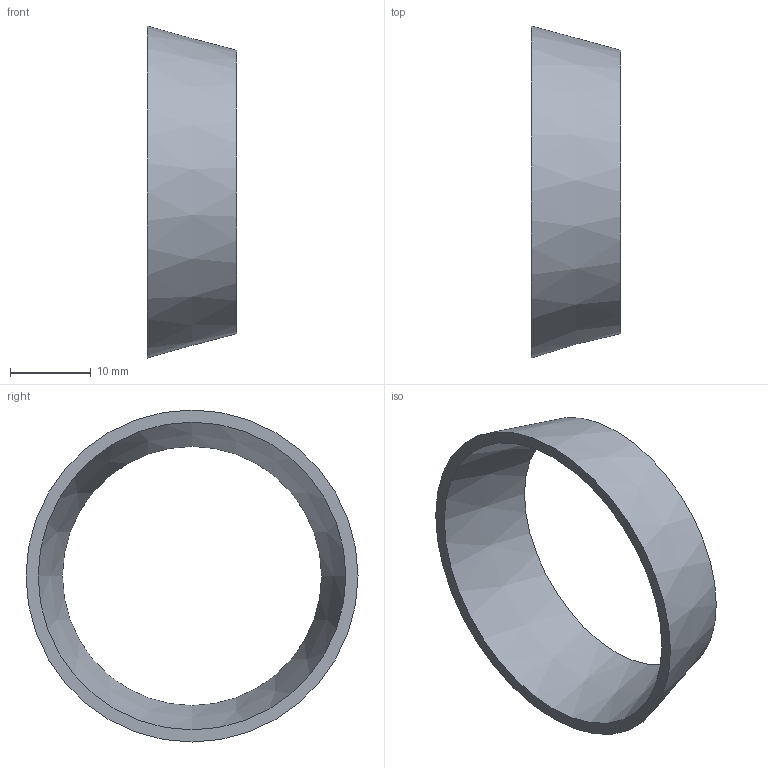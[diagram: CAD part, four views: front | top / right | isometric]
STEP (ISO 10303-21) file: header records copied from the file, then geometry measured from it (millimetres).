
FILE_DESCRIPTION(('FreeCAD Model'),'2;1');
FILE_NAME( '/home/martin/Documents/proyect/accesorios/stp/red-con_DN40-32.step', '2017-12-31T12:23:09',('Author'),(''), 'Open CASCADE STEP processor 6.8','FreeCAD','Unknown');
FILE_SCHEMA(('AUTOMOTIVE_DESIGN_CC2 { 1 2 10303 214 -1 1 5 4 }'));
Length unit declared in the file: millimetre
Products named in the file (1): red-con_DN40-32
Bounding box: 11 x 41 x 41 mm (x, y, z)
Volume: 1892 mm3; surface area: 2958.8 mm2
Topology: 1 solids, 1 shells, 4 faces, 6 edges, 4 vertices
Faces by surface type: cone 2, plane 2
Entity records: 191 total; most frequent: CARTESIAN_POINT 33, DIRECTION 26, ORIENTED_EDGE 12, PCURVE 12, DEFINITIONAL_REPRESENTATION 12, AXIS2_PLACEMENT_3D 9, CIRCLE 8, FACE_BOUND 6
